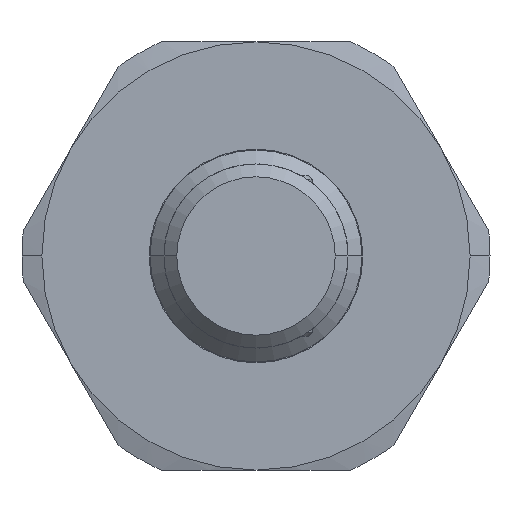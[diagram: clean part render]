
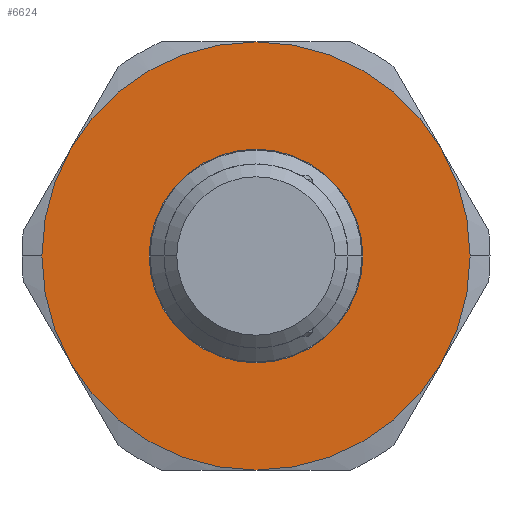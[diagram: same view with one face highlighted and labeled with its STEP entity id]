
A CAD part, left-side view. The second image highlights one B-rep face of the part: STEP entity #6624.
In plain terms, the highlighted planar face has unit normal (-1, 0, 0).
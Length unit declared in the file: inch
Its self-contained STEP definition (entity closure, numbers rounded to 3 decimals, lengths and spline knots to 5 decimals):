
#1146=CARTESIAN_POINT('',(-0.219,-0.5,0.));
#1147=VERTEX_POINT('',#1146);
#1154=CARTESIAN_POINT('',(-0.219,-0.43301,-0.25));
#1155=VERTEX_POINT('',#1154);
#1156=CARTESIAN_POINT('',(-0.219,0.,0.0));
#1157=DIRECTION('',(-1.0,0.0,0.0));
#1158=DIRECTION('',(0.0,1.0,0.0));
#1159=AXIS2_PLACEMENT_3D('',#1156,#1157,#1158);
#1160=CIRCLE('',#1159,0.5);
#1161=EDGE_CURVE('',#1155,#1147,#1160,.T.);
#1193=CARTESIAN_POINT('',(-0.219,0.5,0.));
#1194=VERTEX_POINT('',#1193);
#1202=CARTESIAN_POINT('',(-0.219,0.43301,-0.25));
#1203=VERTEX_POINT('',#1202);
#1217=CARTESIAN_POINT('',(-0.219,0.,0.0));
#1218=DIRECTION('',(-1.0,0.0,0.0));
#1219=DIRECTION('',(0.0,1.0,0.0));
#1220=AXIS2_PLACEMENT_3D('',#1217,#1218,#1219);
#1221=CIRCLE('',#1220,0.5);
#1222=EDGE_CURVE('',#1194,#1203,#1221,.T.);
#1636=CARTESIAN_POINT('',(-0.219,-0.2495,0.0));
#1637=VERTEX_POINT('',#1636);
#1646=CARTESIAN_POINT('',(-0.219,0.2495,0.));
#1647=VERTEX_POINT('',#1646);
#1648=CARTESIAN_POINT('',(-0.219,0.,0.0));
#1649=DIRECTION('',(1.0,0.0,0.0));
#1650=DIRECTION('',(0.0,-1.0,0.0));
#1651=AXIS2_PLACEMENT_3D('',#1648,#1649,#1650);
#1652=CIRCLE('',#1651,0.2495);
#1653=EDGE_CURVE('',#1647,#1637,#1652,.T.);
#6285=CARTESIAN_POINT('',(-0.219,0.,0.0));
#6286=DIRECTION('',(1.0,0.0,0.0));
#6287=DIRECTION('',(0.0,-1.0,0.0));
#6288=AXIS2_PLACEMENT_3D('',#6285,#6286,#6287);
#6289=CIRCLE('',#6288,0.2495);
#6290=EDGE_CURVE('',#1637,#1647,#6289,.T.);
#6561=CARTESIAN_POINT('',(-0.219,0.,0.0));
#6562=DIRECTION('',(1.0,0.0,0.0));
#6563=DIRECTION('',(0.0,1.0,0.0));
#6564=AXIS2_PLACEMENT_3D('',#6561,#6562,#6563);
#6565=PLANE('',#6564);
#6566=CARTESIAN_POINT('',(-0.219,0.,-0.5));
#6567=VERTEX_POINT('',#6566);
#6568=CARTESIAN_POINT('',(-0.219,0.,0.0));
#6569=DIRECTION('',(-1.0,0.0,0.0));
#6570=DIRECTION('',(0.0,1.0,0.0));
#6571=AXIS2_PLACEMENT_3D('',#6568,#6569,#6570);
#6572=CIRCLE('',#6571,0.5);
#6573=EDGE_CURVE('',#1203,#6567,#6572,.T.);
#6574=ORIENTED_EDGE('',*,*,#6573,.T.);
#6575=CARTESIAN_POINT('',(-0.219,0.,0.0));
#6576=DIRECTION('',(-1.0,0.0,0.0));
#6577=DIRECTION('',(0.0,1.0,0.0));
#6578=AXIS2_PLACEMENT_3D('',#6575,#6576,#6577);
#6579=CIRCLE('',#6578,0.5);
#6580=EDGE_CURVE('',#6567,#1155,#6579,.T.);
#6581=ORIENTED_EDGE('',*,*,#6580,.T.);
#6582=ORIENTED_EDGE('',*,*,#1161,.T.);
#6583=CARTESIAN_POINT('',(-0.219,-0.43301,0.25));
#6584=VERTEX_POINT('',#6583);
#6585=CARTESIAN_POINT('',(-0.219,0.,0.0));
#6586=DIRECTION('',(-1.0,0.0,0.0));
#6587=DIRECTION('',(0.0,1.0,0.0));
#6588=AXIS2_PLACEMENT_3D('',#6585,#6586,#6587);
#6589=CIRCLE('',#6588,0.5);
#6590=EDGE_CURVE('',#1147,#6584,#6589,.T.);
#6591=ORIENTED_EDGE('',*,*,#6590,.T.);
#6592=CARTESIAN_POINT('',(-0.219,0.,0.5));
#6593=VERTEX_POINT('',#6592);
#6594=CARTESIAN_POINT('',(-0.219,0.,0.0));
#6595=DIRECTION('',(-1.0,0.0,0.0));
#6596=DIRECTION('',(0.0,1.0,0.0));
#6597=AXIS2_PLACEMENT_3D('',#6594,#6595,#6596);
#6598=CIRCLE('',#6597,0.5);
#6599=EDGE_CURVE('',#6584,#6593,#6598,.T.);
#6600=ORIENTED_EDGE('',*,*,#6599,.T.);
#6601=CARTESIAN_POINT('',(-0.219,0.43301,0.25));
#6602=VERTEX_POINT('',#6601);
#6603=CARTESIAN_POINT('',(-0.219,0.,0.0));
#6604=DIRECTION('',(-1.0,0.0,0.0));
#6605=DIRECTION('',(0.0,1.0,0.0));
#6606=AXIS2_PLACEMENT_3D('',#6603,#6604,#6605);
#6607=CIRCLE('',#6606,0.5);
#6608=EDGE_CURVE('',#6593,#6602,#6607,.T.);
#6609=ORIENTED_EDGE('',*,*,#6608,.T.);
#6610=CARTESIAN_POINT('',(-0.219,0.,0.0));
#6611=DIRECTION('',(-1.0,0.0,0.0));
#6612=DIRECTION('',(0.0,1.0,0.0));
#6613=AXIS2_PLACEMENT_3D('',#6610,#6611,#6612);
#6614=CIRCLE('',#6613,0.5);
#6615=EDGE_CURVE('',#6602,#1194,#6614,.T.);
#6616=ORIENTED_EDGE('',*,*,#6615,.T.);
#6617=ORIENTED_EDGE('',*,*,#1222,.T.);
#6618=EDGE_LOOP('',(#6574,#6581,#6582,#6591,#6600,#6609,#6616,#6617));
#6619=FACE_OUTER_BOUND('',#6618,.T.);
#6620=ORIENTED_EDGE('',*,*,#6290,.T.);
#6621=ORIENTED_EDGE('',*,*,#1653,.T.);
#6622=EDGE_LOOP('',(#6620,#6621));
#6623=FACE_BOUND('',#6622,.T.);
#6624=ADVANCED_FACE('',(#6619,#6623),#6565,.F.);
